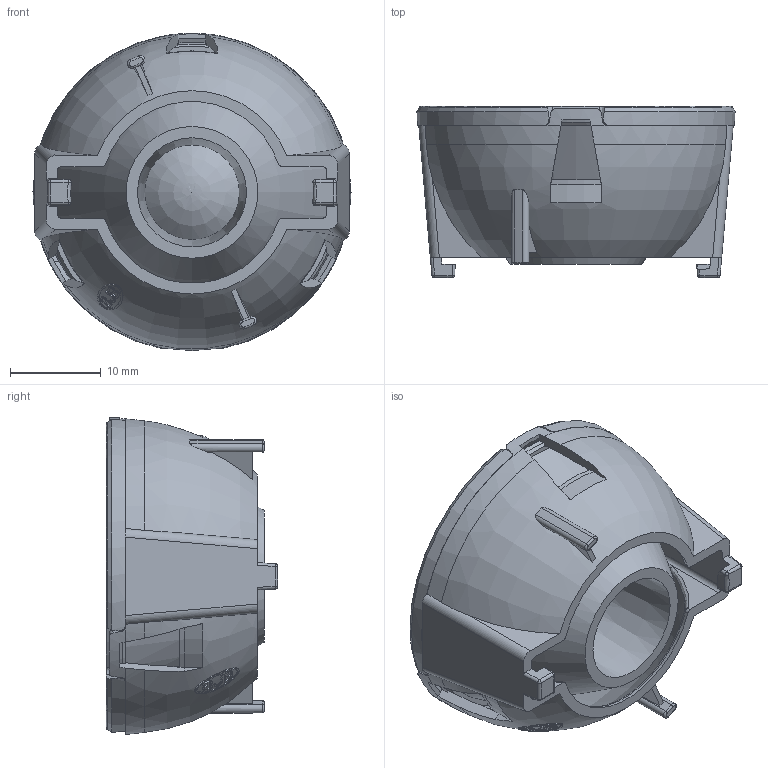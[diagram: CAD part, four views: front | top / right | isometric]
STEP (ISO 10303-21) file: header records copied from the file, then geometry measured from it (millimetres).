
FILE_DESCRIPTION(/* description */ ('Unknown'),/* implementation_level */ '2;1');
FILE_NAME(/* name */ '024-F01-05',/* time_stamp */ '2025-04-15T14:23:42+02:00',/* author */ ('Unknown'),/* organization */ ('Unknown'),/* preprocessor_version */ 'ST-DEVELOPER v16.7',/* originating_system */ 'Solid Edge',/* authorisation */ 'Unknown');
FILE_SCHEMA (('AUTOMOTIVE_DESIGN {1 0 10303 214 3 1 1}'));
Length unit declared in the file: millimetre
Products named in the file (1): 024-F01-05
Bounding box: 35 x 18.85 x 34.89 mm (x, y, z)
Volume: 8832.1 mm3; surface area: 6517.9 mm2
Topology: 2 solids, 2 shells, 409 faces, 1104 edges, 699 vertices
Faces by surface type: plane 196, cylinder 62, bspline 59, cone 50, torus 30, sphere 12
Entity records: 14311 total; most frequent: CARTESIAN_POINT 4281, ORIENTED_EDGE 2182, DIRECTION 2077, EDGE_CURVE 1091, AXIS2_PLACEMENT_3D 879, VERTEX_POINT 697, CIRCLE 462, FACE_BOUND 428
